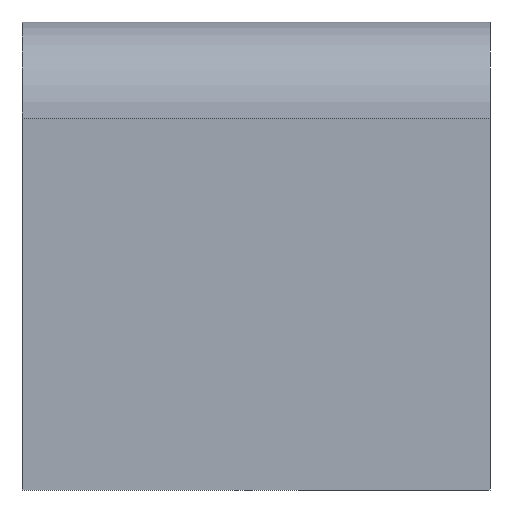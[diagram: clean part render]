
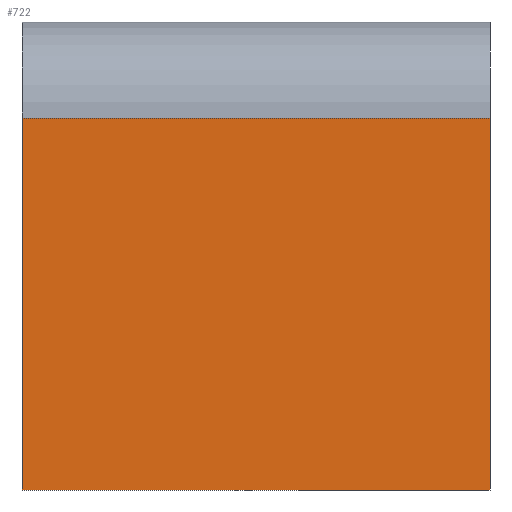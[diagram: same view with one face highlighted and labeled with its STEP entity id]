
A CAD part, front view. The second image highlights one B-rep face of the part: STEP entity #722.
In plain terms, the highlighted planar face has unit normal (0, -1, 0).
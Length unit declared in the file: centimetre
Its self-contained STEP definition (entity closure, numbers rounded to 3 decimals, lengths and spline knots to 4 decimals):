
#3 = CARTESIAN_POINT ( 'NONE',  ( 0., 0., 1000. ) ) ;
#54 = VERTEX_POINT ( 'NONE', #155 ) ;
#101 = DIRECTION ( 'NONE',  ( 0., 0., -1. ) ) ;
#137 = EDGE_CURVE ( 'NONE', #278, #809, #1211, .T. ) ;
#144 = VERTEX_POINT ( 'NONE', #927 ) ;
#155 = CARTESIAN_POINT ( 'NONE',  ( 0., 0., 794.3161 ) ) ;
#175 = CARTESIAN_POINT ( 'NONE',  ( 0., 0., 794.3161 ) ) ;
#215 = EDGE_CURVE ( 'NONE', #144, #809, #602, .T. ) ;
#219 = FACE_OUTER_BOUND ( 'NONE', #336, .T. ) ;
#278 = VERTEX_POINT ( 'NONE', #831 ) ;
#317 = LINE ( 'NONE', #515, #852 ) ;
#336 = EDGE_LOOP ( 'NONE', ( #1093, #565, #539, #1275 ) ) ;
#356 = DIRECTION ( 'NONE',  ( -1., 0., 0. ) ) ;
#404 = DIRECTION ( 'NONE',  ( 1., 0., 0. ) ) ;
#513 = CARTESIAN_POINT ( 'NONE',  ( 1000., 0., 1000. ) ) ;
#515 = CARTESIAN_POINT ( 'NONE',  ( 0., 0., 1000. ) ) ;
#539 = ORIENTED_EDGE ( 'NONE', *, *, #1152, .T. ) ;
#565 = ORIENTED_EDGE ( 'NONE', *, *, #881, .T. ) ;
#602 = LINE ( 'NONE', #713, #714 ) ;
#617 = DIRECTION ( 'NONE',  ( 0., 0., -1. ) ) ;
#684 = VECTOR ( 'NONE', #101, 100. ) ;
#713 = CARTESIAN_POINT ( 'NONE',  ( 0., 0., 0. ) ) ;
#714 = VECTOR ( 'NONE', #404, 100. ) ;
#722 = ADVANCED_FACE ( 'NONE', ( #219 ), #746, .F. ) ;
#746 = PLANE ( 'NONE',  #1024 ) ;
#808 = VECTOR ( 'NONE', #356, 100. ) ;
#809 = VERTEX_POINT ( 'NONE', #835 ) ;
#831 = CARTESIAN_POINT ( 'NONE',  ( 1000., 0., 794.3161 ) ) ;
#835 = CARTESIAN_POINT ( 'NONE',  ( 1000., 0., 0. ) ) ;
#852 = VECTOR ( 'NONE', #617, 100. ) ;
#881 = EDGE_CURVE ( 'NONE', #278, #54, #1089, .T. ) ;
#927 = CARTESIAN_POINT ( 'NONE',  ( 0., 0., 0. ) ) ;
#933 = DIRECTION ( 'NONE',  ( 0., 0., 1. ) ) ;
#1024 = AXIS2_PLACEMENT_3D ( 'NONE', #3, #1161, #933 ) ;
#1089 = LINE ( 'NONE', #175, #808 ) ;
#1093 = ORIENTED_EDGE ( 'NONE', *, *, #137, .F. ) ;
#1152 = EDGE_CURVE ( 'NONE', #54, #144, #317, .T. ) ;
#1161 = DIRECTION ( 'NONE',  ( 0., 1., 0. ) ) ;
#1211 = LINE ( 'NONE', #513, #684 ) ;
#1275 = ORIENTED_EDGE ( 'NONE', *, *, #215, .T. ) ;
